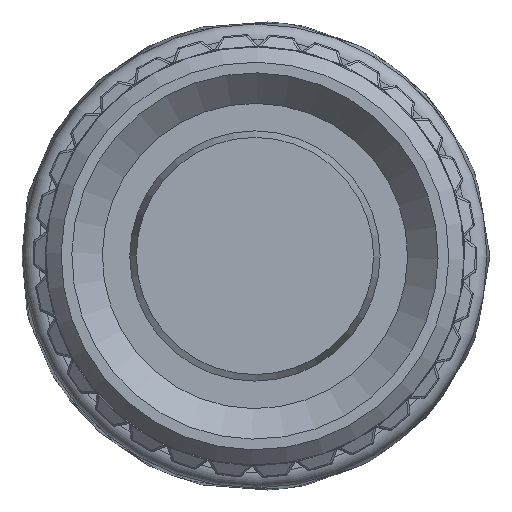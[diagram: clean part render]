
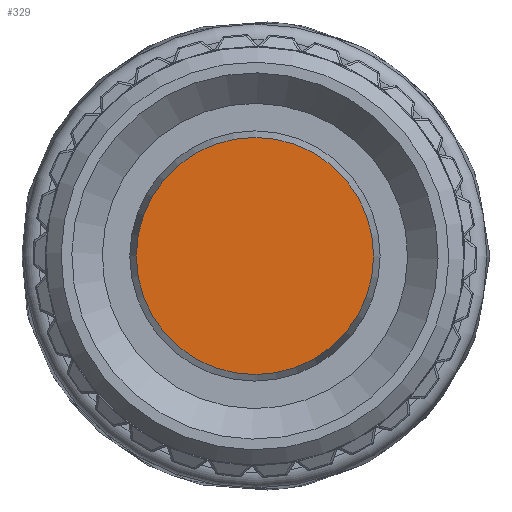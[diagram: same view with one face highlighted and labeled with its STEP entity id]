
A CAD part, left-side view. The second image highlights one B-rep face of the part: STEP entity #329.
In plain terms, the highlighted planar face has unit normal (-1, 0, 0).
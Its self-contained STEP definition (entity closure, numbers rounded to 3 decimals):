
#313=CARTESIAN_POINT('',(0.0,1.943,0.0));
#314=DIRECTION('',(-1.,0.,0.0));
#315=DIRECTION('',(0.0,0.0,1.0));
#316=AXIS2_PLACEMENT_3D('',#313,#314,#315);
#317=PLANE('',#316);
#318=CARTESIAN_POINT('',(0.0,3.886,0.0));
#319=VERTEX_POINT('',#318);
#320=CARTESIAN_POINT('',(0.,0.,0.0));
#321=DIRECTION('',(1.,0.,0.0));
#322=DIRECTION('',(0.,1.,0.0));
#323=AXIS2_PLACEMENT_3D('',#320,#321,#322);
#324=CIRCLE('',#323,3.886);
#325=EDGE_CURVE('',#319,#319,#324,.T.);
#326=ORIENTED_EDGE('',*,*,#325,.F.);
#327=EDGE_LOOP('',(#326));
#328=FACE_OUTER_BOUND('',#327,.T.);
#329=ADVANCED_FACE('',(#328),#317,.T.);
